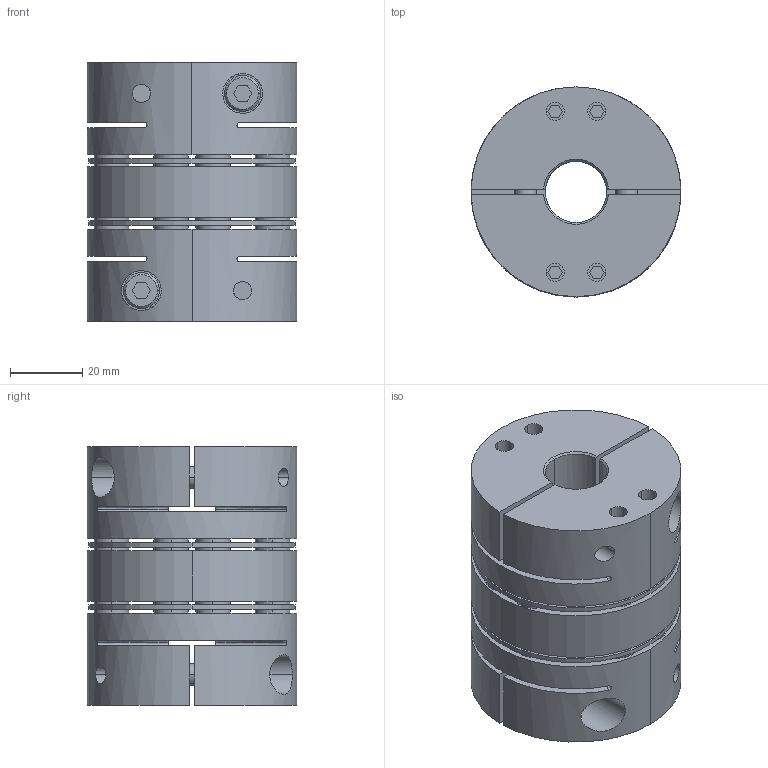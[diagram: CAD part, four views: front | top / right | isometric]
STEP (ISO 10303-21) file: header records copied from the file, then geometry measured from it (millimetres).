
FILE_DESCRIPTION((''),'2;1');
FILE_NAME('TAD-58C-17×17.stp','2022-11-13T22:01:01',(''),(''),'AutoCAD STEP 2000i','AutoCAD 2000i',', , ');
FILE_SCHEMA(('CONFIG_CONTROL_DESIGN'));
Length unit declared in the file: millimetre
Products named in the file (6): TAD-58C-12×12; 忣兜1; TA58C-12-2; CAP-M6×20; TA58C-12; TAS-58C-ITA
Assembly tree (6 placements, depth 3):
  TAD-58C-12×12
    忣兜1
    TA58C-12-2
      CAP-M6×20
    TA58C-12
      CAP-M6×20
    TAS-58C-ITA
Bounding box: 58 x 58 x 71.5 mm (x, y, z)
Volume: 137207.8 mm3; surface area: 56277.7 mm2
Topology: 1 solids, 5 shells, 568 faces, 1360 edges, 920 vertices
Faces by surface type: plane 252, cylinder 228, cone 72, bspline 16
Entity records: 18581 total; most frequent: CARTESIAN_POINT 4799, DIRECTION 2994, ORIENTED_EDGE 2640, EDGE_CURVE 1320, AXIS2_PLACEMENT_3D 1139, VERTEX_POINT 860, EDGE_LOOP 724, VECTOR 716
